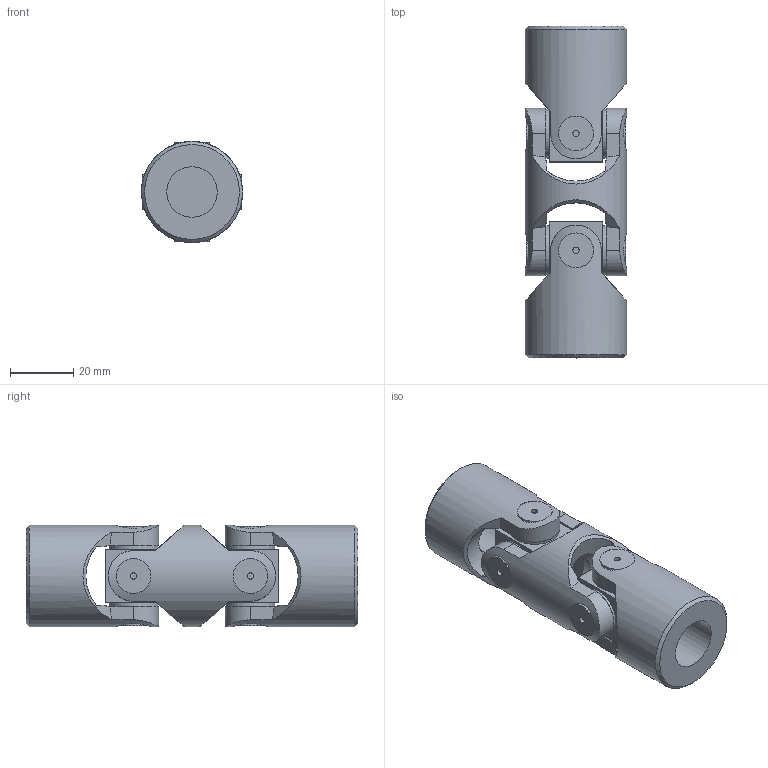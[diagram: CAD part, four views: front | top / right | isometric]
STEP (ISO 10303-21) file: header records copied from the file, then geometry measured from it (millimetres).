
FILE_DESCRIPTION(/* description */ (''),/* implementation_level */ '2;1');
FILE_NAME(/* name */ '\\SRV2016\Societa\Stefano\Disegni 3D\00Catalogo 3D\02Doppi GD-GBD\SG0D1600.stp',/* time_stamp */ '2021-11-22T17:16:16+01:00',/* author */ ('acquisti'),/* organization */ (''),/* preprocessor_version */ 'ST-DEVELOPER v15.6',/* originating_system */ 'Autodesk Inventor 2015',/* authorisation */ '');
FILE_SCHEMA (('AUTOMOTIVE_DESIGN { 1 0 10303 214 3 1 1 }'));
Length unit declared in the file: millimetre
Products named in the file (4): 1G MOD; 1G SFE; 1G MOS; Ø32_1GD-00_SG0D1600
Assembly tree (5 placements, depth 2):
  Ø32_1GD-00_SG0D1600
    1G MOD
    1G SFE  x2
    1G MOS  x2
Bounding box: 32 x 105 x 32 mm (x, y, z)
Volume: 56685.6 mm3; surface area: 21693.5 mm2
Topology: 5 solids, 5 shells, 161 faces, 367 edges, 236 vertices
Faces by surface type: plane 70, cylinder 65, cone 22, torus 4
Full cylindrical faces by diameter (mm): 2 x8, 15.5 x8, 16 x2, 18 x4, 32 x3
Entity records: 3664 total; most frequent: CARTESIAN_POINT 1280, DIRECTION 466, ORIENTED_EDGE 458, EDGE_CURVE 229, AXIS2_PLACEMENT_3D 209, VERTEX_POINT 159, EDGE_LOOP 152, FACE_OUTER_BOUND 112
